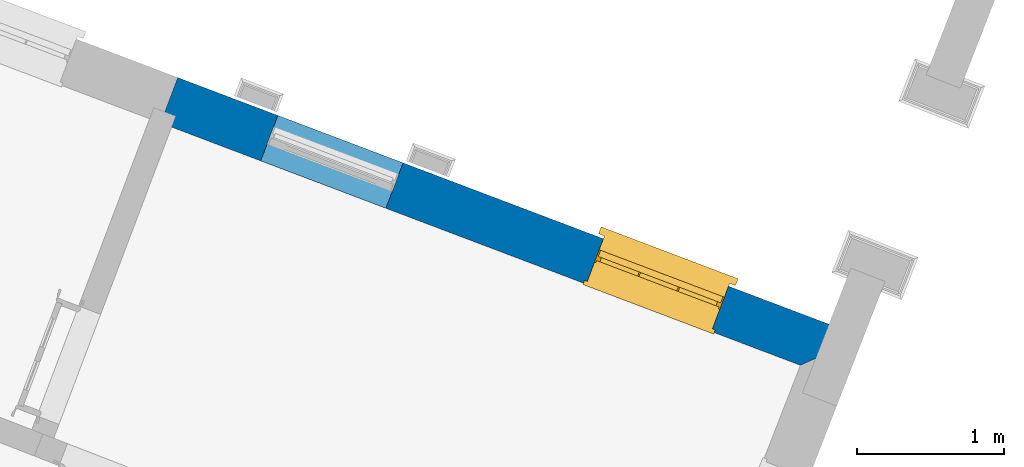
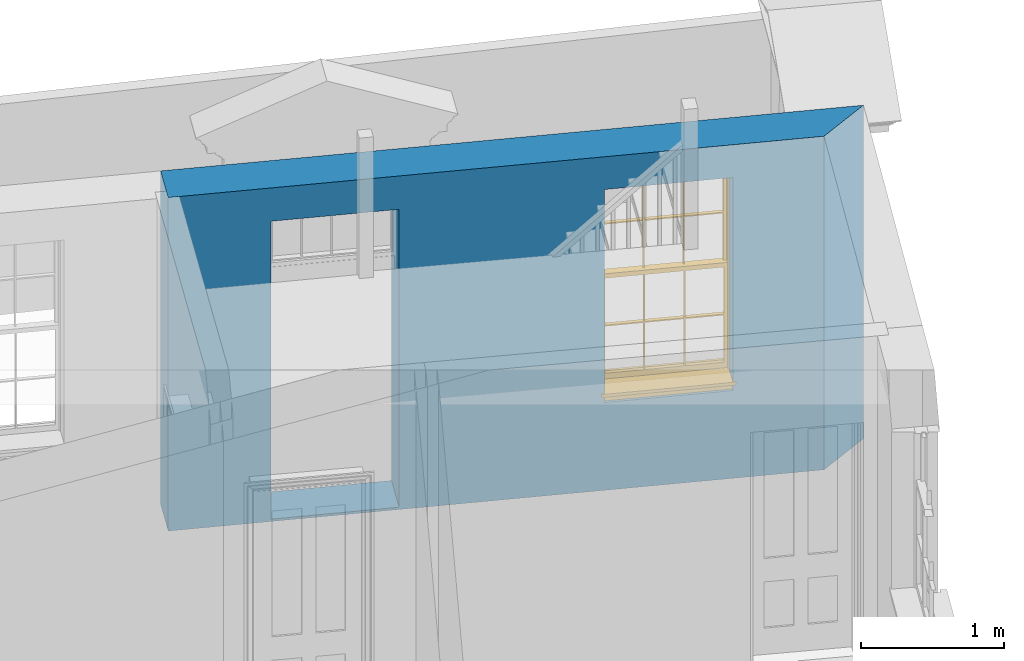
# One storey, part 8 of 10: 1 wall, 1 window, 2 openings.
"""IFC4 building model written with IfcOpenShell, lengths in metres."""

from ifc_helpers import new_model, si_unit, frame, origin, origin_with_axes, place, context, subcontext, project, spatial, polyline, outline, extrude, faceted_brep, source, transform, mapped, material, layer, layer_set, layer_usage, type_object, type_shapes, element, fill, save


model = new_model("IFC4")

# Units and contexts
model_context = context("Model", 3, world=origin_with_axes())
body_context = subcontext(model_context, "Body", "Model", "MODEL_VIEW")
ifc_project = project(units=[si_unit("PLANEANGLEUNIT", "RADIAN"), si_unit("MASSUNIT", "GRAM", prefix="KILO"), si_unit("FORCEUNIT", "NEWTON", prefix="KILO"), si_unit("LENGTHUNIT", "METRE"), si_unit("AREAUNIT", "SQUARE_METRE"), si_unit("VOLUMEUNIT", "CUBIC_METRE")], contexts=[model_context, model_context])

# Sites, building, storey
site_1_placement = place(None, origin_with_axes())
site_1 = spatial("IfcSite", under=ifc_project, at=site_1_placement, Name="Tamar")
site_2_placement = place(site_1_placement, origin_with_axes())
site_2 = spatial("IfcSite", under=site_1, at=site_2_placement, Name="Site plot-8", CompositionType="ELEMENT")
building_placement = place(None, origin_with_axes())
building = spatial("IfcBuilding", under=site_2, at=building_placement, Name="Building plot-8", CompositionType="ELEMENT")
storey_placement = place(None, frame((0.0, 0.0, 26.0), z_axis=(0.0, 0.0, 1.0), x_axis=(1.0, 0.0, 0.0)))
storey = spatial("IfcBuildingStorey", under=building, at=storey_placement, Name="plot-8 0", CompositionType="ELEMENT", Elevation=26.0)

# Wall, openings, window
ifc_material = material(Name="Masonry")
ifc_layer = layer(ifc_material, 0.33, ventilated=False)
ifc_layer_set = layer_set([ifc_layer], Name="exterior_0.08_0.25")
ifc_layer_usage = layer_usage(ifc_layer_set, "AXIS2", "POSITIVE", -0.25)
wall_type = type_object("IfcWallType", Name="exterior_0.08_0.25", PredefinedType="SOLIDWALL", material=ifc_layer_set)
wall_placement = place(storey_placement, frame((231.439139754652, 309.065226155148, 0.0), z_axis=(0.0, 0.0, 1.0), x_axis=(-0.935168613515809, 0.354202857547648, 0.0)))
wall = element("IfcWall", 1, at=wall_placement, inside=storey, type_object=wall_type, material=ifc_layer_usage, Name="exterior", context=body_context, shape_type="SweptSolid", body=[
    extrude(outline(polyline([(0.0807408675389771, 0.0799999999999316), (-0.252315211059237, -0.250000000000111), (4.73179125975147, -0.24999999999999), (4.73179125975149, 0.0799999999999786), (0.0807408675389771, 0.0799999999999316)])), origin_with_axes(), (0.0, 0.0, 1.0), 2.85),
])
opening_1_placement = place(wall_placement, frame((0.727947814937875, 0.0, 0.75)))
opening_1 = element("IfcOpeningElement", 2, at=opening_1_placement, cuts=wall, Name="My Opening", ObjectType="Opening", context=body_context, shape_type="SweptSolid", body=[
    extrude(outline(polyline([(0.0, -0.270000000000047), (0.909999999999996, -0.270000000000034), (0.909999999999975, 1.10000000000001), (-2.16493489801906e-14, 1.1), (0.0, -0.270000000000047)])), origin_with_axes(), (0.0, 0.0, 1.0), 1.82),
])
opening_2_placement = place(wall_placement, frame((3.0938434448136, 0.0, 0.0199999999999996)))
element("IfcOpeningElement", 3, at=opening_2_placement, cuts=wall, Name="My Opening", ObjectType="Opening", context=body_context, shape_type="SweptSolid", body=[
    extrude(outline(polyline([(0.0, -0.270000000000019), (0.909999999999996, -0.270000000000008), (0.909999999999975, 1.10000000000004), (-2.22044604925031e-14, 1.10000000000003), (0.0, -0.270000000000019)])), origin_with_axes(), (0.0, 0.0, 1.0), 2.545),
])
window_type = type_object("IfcWindowType", Name="sash_big", PartitioningType="DOUBLE_PANEL_HORIZONTAL", PredefinedType="NOTDEFINED")
shared_shape = source(origin(), body_context, "Body", "Brep", [
    faceted_brep([(0.033125, 0.145, 0.975209), (0.01, 0.145, 0.975209), (0.033125, 0.145, 1.376042), (0.876875, 0.145, 0.975209), (0.876875, 0.145, 1.376042), (0.9, 0.145, 0.975209), (0.876875, 0.145, 1.386042), (0.876875, 0.145, 1.786875), (0.9, 0.145, 1.81), (0.033125, 0.145, 1.786875), (0.033125, 0.145, 1.386042), (0.01, 0.145, 1.81), (0.876875, 0.115, 1.376042), (0.876875, 0.115, 0.975209), (0.9, 0.115, 0.937083), (0.033125, 0.115, 1.786875), (0.01, 0.115, 1.81), (0.033125, 0.115, 1.386042), (0.01, 0.115, 0.937083), (0.033125, 0.115, 0.975209), (0.033125, 0.115, 1.376042), (0.876875, 0.115, 1.786875), (0.876875, 0.115, 1.386042), (0.9, 0.115, 1.81), (0.033125, 0.145, 0.937083), (0.01, 0.145, 0.937083), (0.033125, 0.145, 0.53625), (0.876875, 0.145, 0.937083), (0.876875, 0.145, 0.53625), (0.9, 0.145, 0.937083), (0.876875, 0.145, 0.52625), (0.876875, 0.145, 0.125417), (0.9, 0.145, 0.077167), (0.033125, 0.145, 0.125417), (0.033125, 0.145, 0.52625), (0.01, 0.145, 0.077167), (-0.0425, 0.0, 0.01), (-0.0425, -0.05, 0.001667), (0.0, 0.0, 0.01), (0.9525, 0.0, 0.01), (0.91, 0.0, 0.01), (0.9525, -0.05, 0.001667), (-0.02, 0.33, 0.077167), (0.0, 0.33, 0.077167), (-0.02, 0.36, 0.077167), (0.0, 0.19, 0.077167), (0.01, 0.19, 0.077167), (0.91, 0.19, 0.077167), (0.91, 0.33, 0.077167), (0.9, 0.19, 0.077167), (0.93, 0.33, 0.077167), (0.93, 0.36, 0.077167), (0.01, 0.175, 0.975209), (0.9, 0.175, 0.975209), (0.876875, 0.175, 0.125417), (0.876875, 0.175, 0.52625), (0.9, 0.175, 0.077167), (0.876875, 0.175, 0.53625), (0.876875, 0.175, 0.937083), (0.033125, 0.175, 0.125417), (0.01, 0.175, 0.077167), (0.033125, 0.175, 0.52625), (0.033125, 0.175, 0.937083), (0.033125, 0.175, 0.53625), (-0.02, 0.33, 0.052167), (-0.02, 0.36, 0.052167), (0.93, 0.36, 0.052167), (0.93, 0.33, 0.052167), (0.91, 0.33, 0.052167), (0.0, 0.33, 0.052167), (0.91, 0.1, 0.026667), (0.0, 0.1, 0.026667), (-0.0425, -0.05, -0.123333), (0.9525, -0.05, -0.123333), (-0.0425, 0.0, -0.123333), (0.9525, 0.0, -0.123333), (0.01, 0.19, 1.81), (0.9, 0.19, 1.81), (0.0, 0.19, 1.82), (0.91, 0.19, 1.82), (0.01, 0.1, 0.077167), (0.9, 0.1, 0.077167), (0.592292, 0.145, 0.125417), (0.592292, 0.175, 0.125417), (0.317708, 0.175, 0.125417), (0.317708, 0.145, 0.125417), (0.592292, 0.145, 0.53625), (0.317708, 0.145, 0.53625), (0.317708, 0.145, 0.52625), (0.592292, 0.145, 0.52625), (0.592292, 0.175, 0.53625), (0.317708, 0.175, 0.53625), (0.592292, 0.115, 1.386042), (0.592292, 0.145, 1.386042), (0.317708, 0.145, 1.386042), (0.317708, 0.115, 1.386042), (0.317708, 0.115, 1.376042), (0.592292, 0.115, 1.376042), (0.317708, 0.145, 1.376042), (0.592292, 0.145, 1.376042), (0.602292, 0.115, 1.376042), (0.592292, 0.115, 0.975209), (0.602292, 0.115, 0.975209), (0.602292, 0.145, 0.975209), (0.592292, 0.145, 0.975209), (0.602292, 0.145, 1.376042), (0.602292, 0.175, 0.53625), (0.602292, 0.145, 0.53625), (0.317708, 0.175, 0.52625), (0.307708, 0.175, 0.125417), (0.307708, 0.175, 0.52625), (0.602292, 0.175, 0.52625), (0.602292, 0.175, 0.125417), (0.592292, 0.175, 0.52625), (0.307708, 0.175, 0.53625), (0.317708, 0.175, 0.937083), (0.307708, 0.175, 0.937083), (0.602292, 0.175, 0.937083), (0.592292, 0.175, 0.937083), (0.307708, 0.145, 0.52625), (0.307708, 0.145, 0.125417), (0.307708, 0.145, 0.53625), (0.307708, 0.145, 0.937083), (0.592292, 0.145, 0.937083), (0.317708, 0.145, 0.937083), (0.602292, 0.145, 0.937083), (0.602292, 0.145, 0.52625), (0.602292, 0.145, 0.125417), (0.307708, 0.115, 1.386042), (0.307708, 0.115, 1.376042), (0.307708, 0.115, 0.975209), (0.317708, 0.115, 0.975209), (0.317708, 0.115, 1.786875), (0.307708, 0.115, 1.786875), (0.602292, 0.115, 1.786875), (0.592292, 0.115, 1.786875), (0.602292, 0.115, 1.386042), (0.602292, 0.145, 1.386042), (0.307708, 0.145, 1.386042), (0.307708, 0.145, 1.786875), (0.317708, 0.145, 1.786875), (0.592292, 0.145, 1.786875), (0.602292, 0.145, 1.786875), (0.307708, 0.145, 1.376042), (0.317708, 0.145, 0.975209), (0.307708, 0.145, 0.975209), (0.91, 0.1, 1.82), (0.9, 0.1, 1.81), (0.01, 0.1, 1.81), (0.0, 0.1, 1.82), (0.91, 0.0, 0.0), (0.0, 0.0, 0.0), (0.91, 0.33, 0.0), (0.0, 0.33, 0.0)], [[[0, 1, 2]], [[3, 4, 5]], [[6, 7, 8]], [[9, 10, 11]], [[12, 13, 14]], [[15, 16, 17]], [[18, 19, 20]], [[21, 22, 23]], [[24, 25, 26]], [[27, 28, 29]], [[30, 31, 32]], [[33, 34, 35]], [[14, 27, 29]], [[25, 24, 18]], [[36, 37, 38]], [[39, 40, 41]], [[42, 43, 44]], [[45, 46, 43]], [[47, 48, 49]], [[50, 51, 48]], [[1, 0, 52]], [[5, 53, 3]], [[54, 55, 56]], [[57, 58, 53]], [[59, 60, 61]], [[62, 63, 52]], [[48, 43, 46, 49]], [[51, 44, 43, 48]], [[64, 42, 44, 65]], [[65, 44, 51, 66]], [[66, 51, 50, 67]], [[65, 66, 68, 69]], [[60, 56, 49, 46]], [[70, 71, 38, 40]], [[37, 41, 40, 38]], [[37, 72, 73, 41]], [[74, 75, 73, 72]], [[8, 11, 76, 77]], [[76, 78, 79, 77]], [[32, 35, 80, 81]], [[81, 80, 71, 70]], [[82, 83, 84, 85]], [[86, 87, 88, 89]], [[86, 90, 91, 87]], [[92, 93, 94, 95]], [[92, 95, 96, 97]], [[96, 98, 99, 97]], [[100, 97, 101, 102]], [[103, 104, 99, 105]], [[97, 99, 104, 101]], [[102, 103, 105, 100]], [[28, 57, 106, 107]], [[108, 84, 109, 110]], [[111, 112, 83, 113]], [[114, 110, 61, 63]], [[90, 113, 108, 91]], [[115, 91, 114, 116]], [[117, 106, 90, 118]], [[111, 106, 57, 55]], [[119, 110, 109, 120]], [[34, 61, 110, 119]], [[89, 113, 83, 82]], [[88, 108, 113, 89]], [[85, 84, 108, 88]], [[121, 114, 63, 26]], [[122, 116, 114, 121]], [[123, 118, 90, 86]], [[87, 91, 115, 124]], [[107, 106, 117, 125]], [[126, 111, 55, 30]], [[127, 112, 111, 126]], [[126, 30, 28, 107]], [[88, 119, 120, 85]], [[126, 89, 82, 127]], [[125, 123, 86, 107]], [[121, 26, 34, 119]], [[124, 122, 121, 87]], [[128, 17, 20, 129]], [[96, 129, 130, 131]], [[132, 133, 128, 95]], [[134, 135, 92, 136]], [[100, 12, 22, 136]], [[137, 6, 4, 105]], [[94, 138, 139, 140]], [[137, 93, 141, 142]], [[99, 98, 94, 93]], [[143, 2, 10, 138]], [[144, 145, 143, 98]], [[129, 143, 145, 130]], [[20, 2, 143, 129]], [[131, 144, 98, 96]], [[128, 138, 10, 17]], [[133, 139, 138, 128]], [[135, 141, 93, 92]], [[95, 94, 140, 132]], [[22, 6, 137, 136]], [[136, 137, 142, 134]], [[100, 105, 4, 12]], [[107, 86, 89, 126]], [[106, 111, 113, 90]], [[91, 108, 110, 114]], [[87, 121, 119, 88]], [[97, 100, 136, 92]], [[129, 96, 95, 128]], [[98, 143, 138, 94]], [[105, 99, 93, 137]], [[131, 101, 104, 144]], [[124, 115, 118, 123]], [[132, 140, 141, 135]], [[120, 109, 59, 33]], [[15, 9, 139, 133]], [[134, 142, 7, 21]], [[31, 54, 112, 127]], [[36, 74, 72, 37]], [[39, 41, 73, 75]], [[18, 14, 101, 131]], [[23, 16, 132, 135]], [[83, 56, 60, 84]], [[52, 53, 118, 115]], [[53, 52, 144, 104]], [[11, 8, 141, 140]], [[14, 18, 124, 123]], [[2, 1, 11, 10]], [[8, 5, 4, 6]], [[57, 53, 56, 55]], [[60, 52, 63, 61]], [[26, 25, 35, 34]], [[32, 29, 28, 30]], [[14, 23, 22, 12]], [[18, 20, 17, 16]], [[19, 0, 2, 20]], [[17, 10, 9, 15]], [[12, 4, 3, 13]], [[21, 7, 6, 22]], [[27, 58, 57, 28]], [[30, 55, 54, 31]], [[33, 59, 61, 34]], [[26, 63, 62, 24]], [[5, 8, 77, 53]], [[76, 11, 1, 52]], [[46, 45, 78, 76]], [[49, 77, 79, 47]], [[70, 146, 147, 81]], [[71, 80, 148, 149]], [[19, 130, 145, 0]], [[102, 13, 3, 103]], [[116, 122, 24, 62]], [[29, 32, 81, 14]], [[80, 35, 25, 18]], [[60, 46, 76, 52]], [[77, 49, 56, 53]], [[23, 14, 81, 147]], [[16, 148, 80, 18]], [[35, 85, 120]], [[120, 33, 35]], [[127, 82, 32]], [[32, 31, 127]], [[32, 82, 85, 35]], [[102, 101, 14]], [[14, 13, 102]], [[18, 131, 130]], [[130, 19, 18]], [[134, 21, 23]], [[23, 135, 134]], [[16, 15, 133]], [[133, 132, 16]], [[11, 140, 139]], [[139, 9, 11]], [[142, 141, 8]], [[8, 7, 142]], [[23, 147, 148, 16]], [[146, 149, 148, 147]], [[52, 115, 116]], [[116, 62, 52]], [[118, 53, 117]], [[58, 117, 53]], [[27, 125, 117, 58]], [[56, 83, 112]], [[112, 54, 56]], [[109, 84, 60]], [[60, 59, 109]], [[125, 27, 14]], [[14, 123, 125]], [[122, 124, 18]], [[18, 24, 122]], [[145, 144, 52]], [[52, 0, 145]], [[103, 3, 53]], [[53, 104, 103]], [[79, 78, 149, 146]], [[78, 45, 71, 149]], [[146, 70, 47, 79]], [[150, 75, 74, 151]], [[68, 66, 67]], [[48, 68, 67, 50]], [[69, 64, 65]], [[42, 64, 69, 43]], [[69, 68, 152, 153]], [[70, 68, 48, 47]], [[150, 152, 68, 70]], [[43, 69, 71, 45]], [[69, 153, 151, 71]], [[152, 150, 151, 153]], [[38, 151, 74, 36]], [[71, 151, 38]], [[39, 75, 150, 40]], [[40, 150, 70]]]),
])
type_shapes(window_type, [shared_shape])
window_placement = place(storey_placement, frame((230.854020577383, 309.575562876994, 0.75), z_axis=(0.0, 0.0, 1.0), x_axis=(-0.851003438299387, 0.322324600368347, 0.0)))
window = element("IfcWindow", 4, at=window_placement, inside=storey, type_object=window_type, Name="circulation outside window", OverallHeight=1.82, OverallWidth=0.91, context=body_context, shape_type="MappedRepresentation", body=[
    mapped(shared_shape, transform((0.0, 0.0, 0.0), scale=1.0)),
])
fill(opening_1, window)

save(model, "model.ifc")
